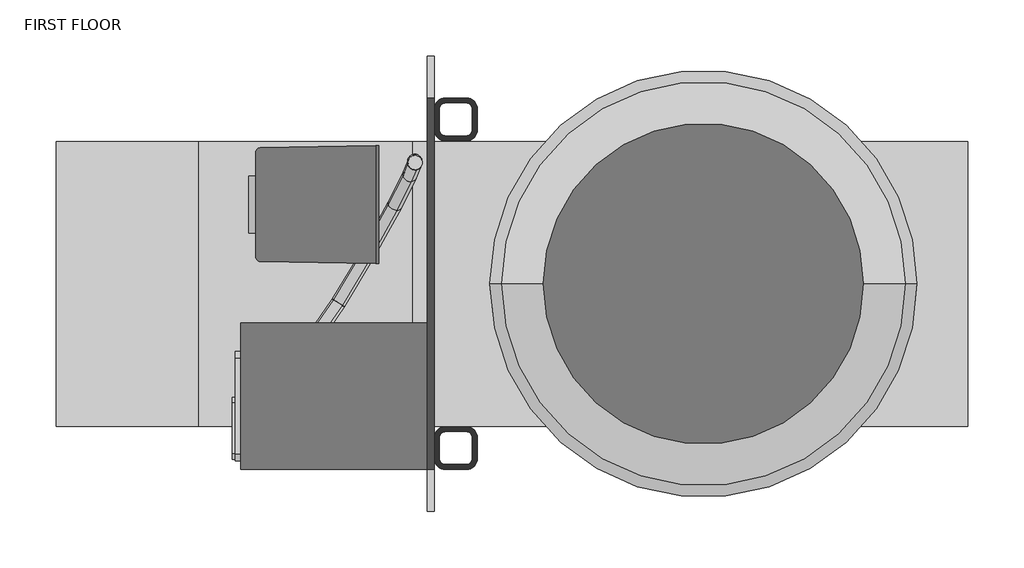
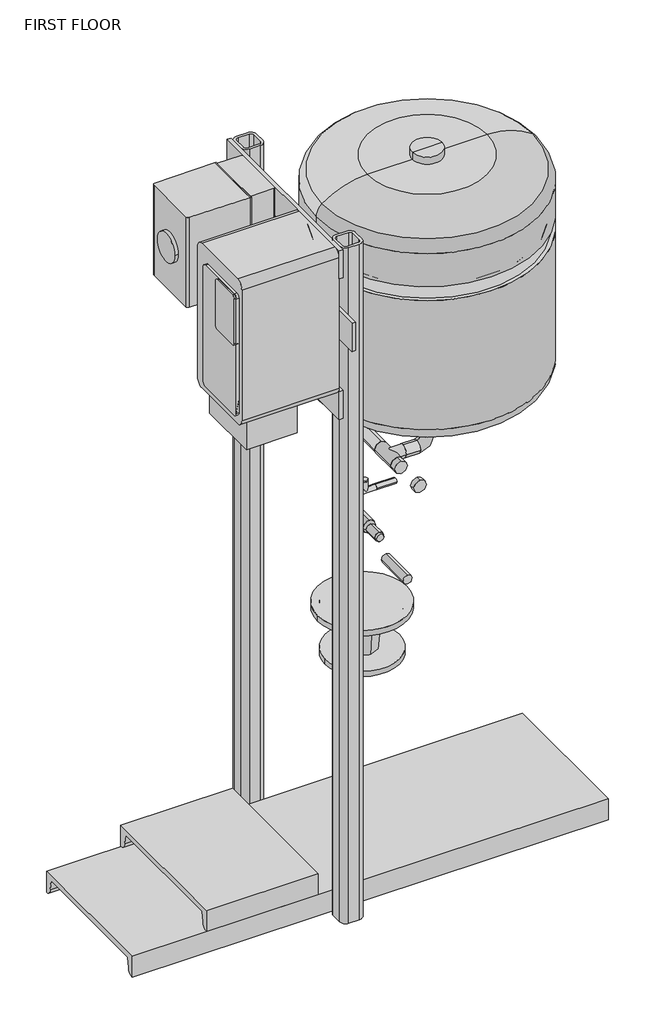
# One storey, incomplete: 13 pipe segments, 9 pipe fittings, 5 beams, 4 proxies, 2 columns, 2 valves.
"""IFC4 building model written with IfcOpenShell, lengths in millimetres."""

from ifc_helpers import new_model, si_unit, point, frame, frame_2d, origin, place, context, project, spatial, circle_curve, ellipse_curve, trimmed, segment, composite_curve, outline, extrude, transform, mapped, element, save
from ifc_brep_helpers import plane_surface, cylinder_surface, advanced_brep
from components import beam_3386be0e, beam_c16335ed, beam_b0f6b6d0, c_channel_c10x20_f8b15b4c, c_channel_c10x20_05937fa8, disconnect_disconnect_c236907a, mechanical_equipment_2_mechanical_equipment_1_fe574fe3, tank_tank_de8b4314, vfd_vfd_badebb43, hss_hollow_structural_section_column_hss1_1_2x1_1_2x3_16_b4625a5d, hss_hollow_structural_section_column_hss1_1_2x1_1_2x3_16_67ca75d1, elbow_generic_standard_738589b0, tee_generic_standard_5078887e, tee_generic_standard_7a603254, transition_generic1_standard_2_0acd84b5, transition_generic1_standard_2_44e35838, transition_generic1_standard_2_162a224e, transition_welded_generic_standard_0458f375, pipe_accessories_3_pipe_accessories_1_588a886f

model = new_model("IFC4")

# Units and contexts
model_context = context("Model", 3, world=origin())
ifc_project = project(units=[si_unit("LENGTHUNIT", "METRE", prefix="MILLI")], contexts=[model_context])

# Site, building, storey
site = spatial("IfcSite", under=ifc_project)
building = spatial("IfcBuilding", under=site)
storey = spatial("IfcBuildingStorey", under=building, Name="FIRST FLOOR", Elevation=0.0)

# Beams
placement = place(None, origin())
beam_shape = beam_3386be0e(model_context)
element("IfcBeam", 1, ObjectType="Structural Stiffeners 1 : Structural Stiffeners 1", at=placement, inside=storey, context=model_context, shape_type="MappedRepresentation", body=[
    mapped(beam_shape, transform((9118.6, 0.0, 0.0), x_axis=(1.0, 0.0, 0.0), y_axis=(0.0, 1.0, 0.0), z_axis=(0.0, 0.0, 1.0))),
])
beam_2_shape = beam_c16335ed(model_context)
element("IfcBeam", 2, ObjectType="Structural Stiffeners 5 : Structural Stiffeners 3", at=placement, inside=storey, context=model_context, shape_type="MappedRepresentation", body=[
    mapped(beam_2_shape, transform((9118.6, 0.0, 0.0), x_axis=(1.0, 0.0, 0.0), y_axis=(0.0, 1.0, 0.0), z_axis=(0.0, 0.0, 1.0))),
])
beam_3_shape = beam_b0f6b6d0(model_context)
element("IfcBeam", 3, ObjectType="Structural Stiffeners 6 : Structural Stiffeners 4", at=placement, inside=storey, context=model_context, shape_type="MappedRepresentation", body=[
    mapped(beam_3_shape, transform((9118.6, 0.0, 0.0), x_axis=(1.0, 0.0, 0.0), y_axis=(0.0, 1.0, 0.0), z_axis=(0.0, 0.0, 1.0))),
])
c_channel_c10x20_shape = c_channel_c10x20_f8b15b4c(model_context)
element("IfcBeam", 4, ObjectType="C-Channel : C10X20", at=placement, inside=storey, context=model_context, shape_type="MappedRepresentation", body=[
    mapped(c_channel_c10x20_shape, transform((11328.7735789, 2040.2688308, 22.8203125), x_axis=(1.0, 0.0, 0.0), y_axis=(0.0, 0.0, 1.0), z_axis=(0.0, -1.0, 0.0))),
])
c_channel_c10x20_2_shape = c_channel_c10x20_05937fa8(model_context)
element("IfcBeam", 5, ObjectType="C-Channel : C10X20", at=placement, inside=storey, context=model_context, shape_type="MappedRepresentation", body=[
    mapped(c_channel_c10x20_2_shape, transform((11250.2685292, 2040.2688308, 60.9203125), x_axis=(1.0, 0.0, 0.0), y_axis=(0.0, 0.0, 1.0), z_axis=(0.0, -1.0, 0.0))),
])

# Proxies
disconnect_disconnect_shape = disconnect_disconnect_c236907a(model_context)
element("IfcBuildingElementProxy", 6, Name="Disconnect : Disconnect", ObjectType="Disconnect : Disconnect", at=placement, inside=storey, context=model_context, shape_type="MappedRepresentation", body=[
    mapped(disconnect_disconnect_shape, transform((11352.6305289, 2110.8435936, 1057.148), x_axis=(0.0, 1.0, 0.0), y_axis=(-1.0, 0.0, 0.0), z_axis=(0.0, 0.0, 1.0))),
])
mechanical_equipment_2_mechanical_equipment_1_shape = mechanical_equipment_2_mechanical_equipment_1_fe574fe3(model_context)
element("IfcBuildingElementProxy", 7, Name="Mechanical Equipment 2 : Mechanical Equipment 1", ObjectType="Mechanical Equipment 2 : Mechanical Equipment 1", at=placement, inside=storey, context=model_context, shape_type="MappedRepresentation", body=[
    mapped(mechanical_equipment_2_mechanical_equipment_1_shape, transform((0.0, 0.0, 25.4), x_axis=(1.0, 0.0, 0.0), y_axis=(0.0, 1.0, 0.0), z_axis=(0.0, 0.0, 1.0))),
])
tank_tank_shape = tank_tank_de8b4314(model_context)
element("IfcBuildingElementProxy", 8, Name="Tank : Tank", ObjectType="Tank : Tank", at=placement, inside=storey, context=model_context, shape_type="MappedRepresentation", body=[
    mapped(tank_tank_shape, transform((11598.6930289, 2040.2688308, 749.3), x_axis=(1.0, 0.0, 0.0), y_axis=(0.0, 1.0, 0.0), z_axis=(0.0, 0.0, 1.0))),
])
vfd_vfd_shape = vfd_vfd_badebb43(model_context)
element("IfcBuildingElementProxy", 9, Name="VFD : VFD", ObjectType="VFD : VFD", at=placement, inside=storey, context=model_context, shape_type="MappedRepresentation", body=[
    mapped(vfd_vfd_shape, transform((11186.4146214, 1935.4938308, 906.7002223), x_axis=(0.0, -1.0, 0.0), y_axis=(1.0, 0.0, 0.0), z_axis=(0.0, 0.0, 1.0))),
])

# Columns
hss_hollow_structural_section_column_hss1_1_2x1_1_2x3_16_shape = hss_hollow_structural_section_column_hss1_1_2x1_1_2x3_16_b4625a5d(model_context)
element("IfcColumn", 10, ObjectType="HSS-Hollow Structural Section-Column : HSS1-1/2X1-1/2X3/16 - Obsolete", at=placement, inside=storey, context=model_context, shape_type="MappedRepresentation", body=[
    mapped(hss_hollow_structural_section_column_hss1_1_2x1_1_2x3_16_shape, transform((11378.0305289, 1893.655878, 0.0), x_axis=(1.0, 0.0, 0.0), y_axis=(0.0, 1.0, 0.0), z_axis=(0.0, 0.0, 1.0))),
])
hss_hollow_structural_section_column_hss1_1_2x1_1_2x3_16_2_shape = hss_hollow_structural_section_column_hss1_1_2x1_1_2x3_16_67ca75d1(model_context)
element("IfcColumn", 11, ObjectType="HSS-Hollow Structural Section-Column : HSS1-1/2X1-1/2X3/16 - Obsolete", at=placement, inside=storey, context=model_context, shape_type="MappedRepresentation", body=[
    mapped(hss_hollow_structural_section_column_hss1_1_2x1_1_2x3_16_2_shape, transform((11378.0305289, 2186.8817836, 0.0), x_axis=(1.0, 0.0, 0.0), y_axis=(0.0, 1.0, 0.0), z_axis=(0.0, 0.0, 1.0))),
])

# Pipe fittings
elbow_generic_standard_shape = elbow_generic_standard_738589b0(model_context)
element("IfcPipeFitting", 12, ObjectType="Elbow - Generic : Standard", at=placement, inside=storey, context=model_context, shape_type="MappedRepresentation", body=[
    mapped(elbow_generic_standard_shape, transform((11598.6930289, 2040.2688308, 685.8), x_axis=(0.0, 0.0, -1.0), y_axis=(-1.0, 0.0, 0.0), z_axis=(0.0, 1.0, 0.0))),
])
element("IfcPipeFitting", 13, ObjectType="Elbow - Generic : Standard", at=placement, inside=storey, context=model_context, shape_type="MappedRepresentation", body=[
    mapped(elbow_generic_standard_shape, transform((11533.3903765, 2159.3313308, 685.8), x_axis=(0.0, 1.0, 0.0), y_axis=(0.0, 0.0, -1.0), z_axis=(-1.0, 0.0, 0.0))),
])
element("IfcPipeFitting", 14, ObjectType="Elbow - Generic : Standard", at=placement, inside=storey, context=model_context, shape_type="MappedRepresentation", body=[
    mapped(elbow_generic_standard_shape, transform((11533.3903765, 2159.3313308, 521.97), x_axis=(0.0, 0.0, -1.0), y_axis=(0.0, -1.0, 0.0), z_axis=(-1.0, 0.0, 0.0))),
])
tee_generic_standard_shape = tee_generic_standard_5078887e(model_context)
element("IfcPipeFitting", 15, ObjectType="Tee - Generic : Standard", at=placement, inside=storey, context=model_context, shape_type="MappedRepresentation", body=[
    mapped(tee_generic_standard_shape, transform((11533.3903765, 2040.2688308, 685.8), x_axis=(0.0, -1.0, 0.0), y_axis=(-1.0, 0.0, 0.0), z_axis=(0.0, 0.0, -1.0))),
])
tee_generic_standard_2_shape = tee_generic_standard_7a603254(model_context)
element("IfcPipeFitting", 16, ObjectType="Tee - Generic : Standard", at=placement, inside=storey, context=model_context, shape_type="MappedRepresentation", body=[
    mapped(tee_generic_standard_2_shape, transform((11457.9841265, 1980.7375808, 685.8), x_axis=(-1.0, 0.0, 0.0), y_axis=(0.0, 0.0, -1.0), z_axis=(0.0, -1.0, 0.0))),
])
transition_generic1_standard_2_shape = transition_generic1_standard_2_0acd84b5(model_context)
element("IfcPipeFitting", 17, ObjectType="Transition - Generic1 : Standard 2", at=placement, inside=storey, context=model_context, shape_type="MappedRepresentation", body=[
    mapped(transition_generic1_standard_2_shape, transform((11598.6930289, 2040.2688308, 760.197863), x_axis=(0.0, 0.0, 1.0), y_axis=(-1.0, 0.0, 0.0), z_axis=(0.0, -1.0, 0.0))),
])
transition_generic1_standard_2_2_shape = transition_generic1_standard_2_44e35838(model_context)
element("IfcPipeFitting", 18, ObjectType="Transition - Generic1 : Standard 2", at=placement, inside=storey, context=model_context, shape_type="MappedRepresentation", body=[
    mapped(transition_generic1_standard_2_2_shape, transform((11533.3903765, 2099.8000808, 521.97), x_axis=(0.0, -1.0, 0.0), y_axis=(1.0, 0.0, 0.0), z_axis=(0.0, 0.0, 1.0))),
])
transition_generic1_standard_2_3_shape = transition_generic1_standard_2_162a224e(model_context)
element("IfcPipeFitting", 19, ObjectType="Transition - Generic1 : Standard 2", at=placement, inside=storey, context=model_context, shape_type="MappedRepresentation", body=[
    mapped(transition_generic1_standard_2_3_shape, transform((11533.3903765, 2069.6249791, 521.97), x_axis=(0.0, -1.0, 0.0), y_axis=(1.0, 0.0, 0.0), z_axis=(0.0, 0.0, 1.0))),
])
transition_welded_generic_standard_shape = transition_welded_generic_standard_0458f375(model_context)
element("IfcPipeFitting", 20, ObjectType="Transition - Welded - Generic : Standard", at=placement, inside=storey, context=model_context, shape_type="MappedRepresentation", body=[
    mapped(transition_welded_generic_standard_shape, transform((11487.5680289, 2040.2688308, 355.4266676), x_axis=(0.0, 0.0, 1.0), y_axis=(0.0, -1.0, 0.0), z_axis=(1.0, 0.0, 0.0))),
])

# Pipe segments
element("IfcPipeSegment", 21, ObjectType="Flex - Round", at=placement, inside=storey, context=model_context, shape_type="AdvancedBrep", body=[
    advanced_brep(
    [(11335.3975788, 2147.4712083, 1070.589219), (11342.7251084, 2142.2820118, 1070.4325321), (11347.916536, 2149.6079608, 1070.589219), (11340.5890064, 2154.7971572, 1070.745906), (11335.2209973, 2148.5057765, 1028.0682254), (11340.4115903, 2155.8366155, 1028.0239325), (11347.7398395, 2150.6432023, 1028.0405559), (11342.5492466, 2143.3123633, 1028.0848488)],
    [
        (0, 1, circle_curve(frame((11341.6570574, 2148.5395845, 1070.589219), z_axis=(0.004151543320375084, -0.024323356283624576, 0.9996955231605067), x_axis=(-0.9857446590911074, -0.16824823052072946, 0.0)), 6.35)),
        (1, 2, circle_curve(frame((11341.6570574, 2148.5395845, 1070.589219), z_axis=(0.004151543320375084, -0.024323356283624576, 0.9996955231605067), x_axis=(-0.9857446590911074, -0.16824823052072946, 0.0)), 6.35)),
        (2, 3, circle_curve(frame((11341.6570574, 2148.5395845, 1070.589219), z_axis=(0.004151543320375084, -0.024323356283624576, 0.9996955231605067), x_axis=(-0.9857446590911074, -0.16824823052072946, 0.0)), 6.35)),
        (3, 0, circle_curve(frame((11341.6570574, 2148.5395845, 1070.589219), z_axis=(0.004151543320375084, -0.024323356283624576, 0.9996955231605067), x_axis=(-0.9857446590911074, -0.16824823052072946, 0.0)), 6.35)),
        (4, 5, ellipse_curve(frame((11341.4804184, 2149.5744894, 1028.0543907), z_axis=(-0.0013407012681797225, -0.005092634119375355, -0.9999861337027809), x_axis=(0.09514721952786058, -0.9954509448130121, 0.0049419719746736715)), 6.3527739, 6.35)),
        (5, 6, ellipse_curve(frame((11341.4804184, 2149.5744894, 1028.0543907), z_axis=(-0.0013407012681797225, -0.005092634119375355, -0.9999861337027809), x_axis=(0.09514721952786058, -0.9954509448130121, 0.0049419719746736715)), 6.3527739, 6.35)),
        (6, 7, ellipse_curve(frame((11341.4804184, 2149.5744894, 1028.0543907), z_axis=(-0.0013407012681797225, -0.005092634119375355, -0.9999861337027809), x_axis=(0.09514721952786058, -0.9954509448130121, 0.0049419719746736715)), 6.3527739, 6.35)),
        (7, 4, ellipse_curve(frame((11341.4804184, 2149.5744894, 1028.0543907), z_axis=(-0.0013407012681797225, -0.005092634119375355, -0.9999861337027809), x_axis=(0.09514721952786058, -0.9954509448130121, 0.0049419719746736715)), 6.3527739, 6.35)),
        (0, 4),
        (7, 1),
        (6, 2),
        (5, 3),
    ],
    [
        plane_surface(frame((11341.6570574, 2154.8877058, 1070.7436737), z_axis=(0.004151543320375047, -0.024323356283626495, 0.9996955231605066), x_axis=(0.9999913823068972, 0.00010098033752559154, -0.004150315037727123))),
        plane_surface(frame((11347.8016041, 2150.1786238, 1028.0428391), z_axis=(-0.0013407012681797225, -0.005092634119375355, -0.9999861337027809), x_axis=(0.09514721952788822, -0.9954509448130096, 0.004941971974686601))),
        cylinder_surface(frame((11341.6570574, 2148.5395845, 1070.589219), z_axis=(0.004151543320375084, -0.024323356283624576, 0.9996955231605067), x_axis=(-0.9857446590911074, -0.16824823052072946, 0.0)), 6.35),
    ],
    [
        (0, [[1, 2, 3, 4]]),
        (1, [[5, 6, 7, 8]]),
        (2, [[-1, 9, -8, 10]]),
        (2, [[-2, -10, -7, 11]]),
        (2, [[-3, -11, -6, 12]]),
        (2, [[-4, -12, -5, -9]]),
    ],
),
    advanced_brep(
    [(11335.2209973, 2148.5057765, 1028.0682254), (11342.5492466, 2143.3123633, 1028.0848488), (11347.7398395, 2150.6432023, 1028.0405559), (11340.4115903, 2155.8366155, 1028.0239325), (11335.2834544, 2147.0410751, 985.6435743), (11342.6111534, 2141.8605664, 986.0339729), (11347.8037297, 2149.1448938, 984.6424862), (11340.4760307, 2154.3254025, 984.2520876)],
    [
        (0, 1, ellipse_curve(frame((11341.4804184, 2149.5744894, 1028.0543907), z_axis=(0.0013407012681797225, 0.005092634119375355, 0.9999861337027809), x_axis=(-0.09514721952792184, 0.9954509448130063, -0.004941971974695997)), 6.3527739, 6.35)),
        (1, 2, ellipse_curve(frame((11341.4804184, 2149.5744894, 1028.0543907), z_axis=(0.0013407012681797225, 0.005092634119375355, 0.9999861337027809), x_axis=(-0.09514721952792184, 0.9954509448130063, -0.004941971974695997)), 6.3527739, 6.35)),
        (2, 3, ellipse_curve(frame((11341.4804184, 2149.5744894, 1028.0543907), z_axis=(0.0013407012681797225, 0.005092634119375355, 0.9999861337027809), x_axis=(-0.09514721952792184, 0.9954509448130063, -0.004941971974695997)), 6.3527739, 6.35)),
        (3, 0, ellipse_curve(frame((11341.4804184, 2149.5744894, 1028.0543907), z_axis=(0.0013407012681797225, 0.005092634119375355, 0.9999861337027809), x_axis=(-0.09514721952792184, 0.9954509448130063, -0.004941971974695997)), 6.3527739, 6.35)),
        (0, 4),
        (4, 5, ellipse_curve(frame((11341.5435921, 2148.0929845, 985.1430302), z_axis=(0.05367454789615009, 0.1503143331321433, 0.9871801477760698), x_axis=(-0.42540884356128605, -0.8909612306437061, 0.15879358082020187)), 6.4031541, 6.35)),
        (5, 1),
        (5, 6, ellipse_curve(frame((11341.5435921, 2148.0929845, 985.1430302), z_axis=(0.05367454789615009, 0.1503143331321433, 0.9871801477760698), x_axis=(-0.42540884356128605, -0.8909612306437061, 0.15879358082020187)), 6.4031541, 6.35)),
        (6, 2),
        (6, 7, ellipse_curve(frame((11341.5435921, 2148.0929845, 985.1430302), z_axis=(0.05367454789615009, 0.1503143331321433, 0.9871801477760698), x_axis=(-0.42540884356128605, -0.8909612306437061, 0.15879358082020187)), 6.4031541, 6.35)),
        (7, 3),
        (7, 4, ellipse_curve(frame((11341.5435921, 2148.0929845, 985.1430302), z_axis=(0.05367454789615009, 0.1503143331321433, 0.9871801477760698), x_axis=(-0.42540884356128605, -0.8909612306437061, 0.15879358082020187)), 6.4031541, 6.35)),
    ],
    [
        plane_surface(frame((11347.8016041, 2150.1786238, 1028.0428391), z_axis=(0.0013407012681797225, 0.005092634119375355, 0.9999861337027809), x_axis=(0.09514721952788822, -0.9954509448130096, 0.004941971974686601))),
        cylinder_surface(frame((11341.4804184, 2149.5744894, 1028.0543907), z_axis=(-0.0014713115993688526, 0.03450417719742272, 0.999403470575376), x_axis=(-0.9857388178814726, -0.16822604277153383, 0.004356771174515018)), 6.35),
        plane_surface(frame((11347.2802341, 2145.372147, 985.245412), z_axis=(-0.05367454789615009, -0.1503143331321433, -0.9871801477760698), x_axis=(-0.4254088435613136, -0.890961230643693, 0.15879358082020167))),
    ],
    [
        (0, [[1, 2, 3, 4]]),
        (1, [[-1, 5, 6, 7]]),
        (1, [[-2, -7, 8, 9]]),
        (1, [[-3, -9, 10, 11]]),
        (1, [[-4, -11, 12, -5]]),
        (2, [[-12, -10, -8, -6]]),
    ],
),
    advanced_brep(
    [(11335.2834544, 2147.0410751, 985.6435743), (11342.6111534, 2141.8605664, 986.0339729), (11347.8037297, 2149.1448938, 984.6424862), (11340.4760307, 2154.3254025, 984.2520876), (11330.9823605, 2136.5351893, 947.4436744), (11335.8244995, 2142.9635357, 942.9398004), (11343.1985687, 2137.8962913, 943.7420334), (11338.3564297, 2131.4679448, 948.2459074)],
    [
        (0, 1, ellipse_curve(frame((11341.5435921, 2148.0929845, 985.1430302), z_axis=(0.05367454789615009, 0.1503143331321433, 0.9871801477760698), x_axis=(0.42540884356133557, 0.8909612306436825, -0.158793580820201)), 6.4031541, 6.35)),
        (1, 2, ellipse_curve(frame((11341.5435921, 2148.0929845, 985.1430302), z_axis=(0.05367454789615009, 0.1503143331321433, 0.9871801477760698), x_axis=(0.42540884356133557, 0.8909612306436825, -0.158793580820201)), 6.4031541, 6.35)),
        (2, 3, ellipse_curve(frame((11341.5435921, 2148.0929845, 985.1430302), z_axis=(0.05367454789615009, 0.1503143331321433, 0.9871801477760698), x_axis=(0.42540884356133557, 0.8909612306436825, -0.158793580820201)), 6.4031541, 6.35)),
        (3, 0, ellipse_curve(frame((11341.5435921, 2148.0929845, 985.1430302), z_axis=(0.05367454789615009, 0.1503143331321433, 0.9871801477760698), x_axis=(0.42540884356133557, 0.8909612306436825, -0.158793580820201)), 6.4031541, 6.35)),
        (4, 5, ellipse_curve(frame((11337.0904646, 2137.2157403, 945.5928539), z_axis=(-0.21322910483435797, -0.4477748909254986, -0.8683495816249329), x_axis=(-0.4351267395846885, -0.7522510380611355, 0.4947555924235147)), 6.5233147, 6.35)),
        (5, 6, ellipse_curve(frame((11337.0904646, 2137.2157403, 945.5928539), z_axis=(-0.21322910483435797, -0.4477748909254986, -0.8683495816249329), x_axis=(-0.4351267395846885, -0.7522510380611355, 0.4947555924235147)), 6.5233147, 6.35)),
        (6, 7, ellipse_curve(frame((11337.0904646, 2137.2157403, 945.5928539), z_axis=(-0.21322910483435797, -0.4477748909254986, -0.8683495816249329), x_axis=(-0.4351267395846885, -0.7522510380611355, 0.4947555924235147)), 6.5233147, 6.35)),
        (7, 4, ellipse_curve(frame((11337.0904646, 2137.2157403, 945.5928539), z_axis=(-0.21322910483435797, -0.4477748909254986, -0.8683495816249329), x_axis=(-0.4351267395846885, -0.7522510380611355, 0.4947555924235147)), 6.5233147, 6.35)),
        (0, 4),
        (7, 1),
        (6, 2),
        (5, 3),
    ],
    [
        plane_surface(frame((11347.2802341, 2145.372147, 985.245412), z_axis=(0.05367454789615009, 0.1503143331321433, 0.9871801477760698), x_axis=(-0.4254088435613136, -0.890961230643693, 0.15879358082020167))),
        plane_surface(frame((11342.6451652, 2134.1465413, 945.8115289), z_axis=(-0.21322910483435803, -0.4477748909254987, -0.8683495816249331), x_axis=(-0.4351267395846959, -0.7522510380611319, 0.49475559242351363))),
        cylinder_surface(frame((11341.5435921, 2148.0929845, 985.1430302), z_axis=(0.10792927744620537, 0.26362890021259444, 0.9585671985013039), x_axis=(-0.9778062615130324, -0.14601110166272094, 0.15025203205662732)), 6.35),
    ],
    [
        (0, [[1, 2, 3, 4]]),
        (1, [[5, 6, 7, 8]]),
        (2, [[-1, 9, -8, 10]]),
        (2, [[-2, -10, -7, 11]]),
        (2, [[-3, -11, -6, 12]]),
        (2, [[-4, -12, -5, -9]]),
    ],
),
    advanced_brep(
    [(11330.9823605, 2136.5351893, 947.4436744), (11338.3564297, 2131.4679448, 948.2459074), (11343.1985687, 2137.8962913, 943.7420334), (11335.8244995, 2142.9635357, 942.9398004), (11317.9019165, 2110.6412632, 916.2756906), (11321.5507517, 2114.7073564, 908.9284212), (11329.0358957, 2109.8599946, 909.9953223), (11325.3870605, 2105.7939014, 917.3425917)],
    [
        (0, 1, ellipse_curve(frame((11337.0904646, 2137.2157403, 945.5928539), z_axis=(0.21322910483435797, 0.4477748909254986, 0.8683495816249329), x_axis=(0.4351267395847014, 0.7522510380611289, -0.49475559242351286)), 6.5233147, 6.35)),
        (1, 2, ellipse_curve(frame((11337.0904646, 2137.2157403, 945.5928539), z_axis=(0.21322910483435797, 0.4477748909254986, 0.8683495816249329), x_axis=(0.4351267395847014, 0.7522510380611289, -0.49475559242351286)), 6.5233147, 6.35)),
        (2, 3, ellipse_curve(frame((11337.0904646, 2137.2157403, 945.5928539), z_axis=(0.21322910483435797, 0.4477748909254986, 0.8683495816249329), x_axis=(0.4351267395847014, 0.7522510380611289, -0.49475559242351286)), 6.5233147, 6.35)),
        (3, 0, ellipse_curve(frame((11337.0904646, 2137.2157403, 945.5928539), z_axis=(0.21322910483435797, 0.4477748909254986, 0.8683495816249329), x_axis=(0.4351267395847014, 0.7522510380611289, -0.49475559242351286)), 6.5233147, 6.35)),
        (4, 5, ellipse_curve(frame((11323.4689061, 2110.2506289, 913.1355065), z_axis=(-0.38035491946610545, -0.7161376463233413, -0.5852153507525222), x_axis=(-0.33682675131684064, -0.48205080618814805, 0.8088107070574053)), 6.4748381, 6.35)),
        (5, 6, ellipse_curve(frame((11323.4689061, 2110.2506289, 913.1355065), z_axis=(-0.38035491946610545, -0.7161376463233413, -0.5852153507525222), x_axis=(-0.33682675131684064, -0.48205080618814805, 0.8088107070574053)), 6.4748381, 6.35)),
        (6, 7, ellipse_curve(frame((11323.4689061, 2110.2506289, 913.1355065), z_axis=(-0.38035491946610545, -0.7161376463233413, -0.5852153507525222), x_axis=(-0.33682675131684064, -0.48205080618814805, 0.8088107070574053)), 6.4748381, 6.35)),
        (7, 4, ellipse_curve(frame((11323.4689061, 2110.2506289, 913.1355065), z_axis=(-0.38035491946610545, -0.7161376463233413, -0.5852153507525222), x_axis=(-0.33682675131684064, -0.48205080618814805, 0.8088107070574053)), 6.4748381, 6.35)),
        (0, 4),
        (7, 1),
        (6, 2),
        (5, 3),
    ],
    [
        plane_surface(frame((11342.6451652, 2134.1465413, 945.8115289), z_axis=(0.21322910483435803, 0.4477748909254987, 0.8683495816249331), x_axis=(-0.4351267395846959, -0.7522510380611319, 0.49475559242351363))),
        plane_surface(frame((11328.9383092, 2107.045458, 913.5029424), z_axis=(-0.38035491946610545, -0.7161376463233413, -0.5852153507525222), x_axis=(-0.3368267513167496, -0.48205080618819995, 0.8088107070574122))),
        cylinder_surface(frame((11337.0904646, 2137.2157403, 945.5928539), z_axis=(0.3071985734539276, 0.6081274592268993, 0.7319904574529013), x_axis=(-0.9166497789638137, -0.01758427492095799, 0.39930436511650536)), 6.35),
    ],
    [
        (0, [[1, 2, 3, 4]]),
        (1, [[5, 6, 7, 8]]),
        (2, [[-1, 9, -8, 10]]),
        (2, [[-2, -10, -7, 11]]),
        (2, [[-3, -11, -6, 12]]),
        (2, [[-4, -12, -5, -9]]),
    ],
),
    advanced_brep(
    [(11317.9019165, 2110.6412632, 916.2756906), (11325.3870605, 2105.7939014, 917.3425917), (11329.0358957, 2109.8599946, 909.9953223), (11321.5507517, 2114.7073564, 908.9284212), (11295.4406583, 2069.8725306, 894.9901328), (11297.7570082, 2071.5200711, 886.380125), (11305.3060412, 2066.7886721, 887.5075709), (11302.9896913, 2065.1411315, 896.1175786)],
    [
        (0, 1, ellipse_curve(frame((11323.4689061, 2110.2506289, 913.1355065), z_axis=(0.38035491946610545, 0.7161376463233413, 0.5852153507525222), x_axis=(0.3368267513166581, 0.4820508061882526, -0.8088107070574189)), 6.4748381, 6.35)),
        (1, 2, ellipse_curve(frame((11323.4689061, 2110.2506289, 913.1355065), z_axis=(0.38035491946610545, 0.7161376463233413, 0.5852153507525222), x_axis=(0.3368267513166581, 0.4820508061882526, -0.8088107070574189)), 6.4748381, 6.35)),
        (2, 3, ellipse_curve(frame((11323.4689061, 2110.2506289, 913.1355065), z_axis=(0.38035491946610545, 0.7161376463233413, 0.5852153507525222), x_axis=(0.3368267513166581, 0.4820508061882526, -0.8088107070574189)), 6.4748381, 6.35)),
        (3, 0, ellipse_curve(frame((11323.4689061, 2110.2506289, 913.1355065), z_axis=(0.38035491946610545, 0.7161376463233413, 0.5852153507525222), x_axis=(0.3368267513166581, 0.4820508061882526, -0.8088107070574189)), 6.4748381, 6.35)),
        (4, 5, ellipse_curve(frame((11300.3733498, 2068.3306013, 891.2488518), z_axis=(-0.47749382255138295, -0.8303212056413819, -0.287343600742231), x_axis=(-0.24680076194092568, -0.18711891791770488, 0.9508290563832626)), 6.4114066, 6.35)),
        (5, 6, ellipse_curve(frame((11300.3733498, 2068.3306013, 891.2488518), z_axis=(-0.47749382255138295, -0.8303212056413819, -0.287343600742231), x_axis=(-0.24680076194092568, -0.18711891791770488, 0.9508290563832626)), 6.4114066, 6.35)),
        (6, 7, ellipse_curve(frame((11300.3733498, 2068.3306013, 891.2488518), z_axis=(-0.47749382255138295, -0.8303212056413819, -0.287343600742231), x_axis=(-0.24680076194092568, -0.18711891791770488, 0.9508290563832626)), 6.4114066, 6.35)),
        (7, 4, ellipse_curve(frame((11300.3733498, 2068.3306013, 891.2488518), z_axis=(-0.47749382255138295, -0.8303212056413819, -0.287343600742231), x_axis=(-0.24680076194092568, -0.18711891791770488, 0.9508290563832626)), 6.4114066, 6.35)),
        (0, 4),
        (7, 1),
        (6, 2),
        (5, 3),
    ],
    [
        plane_surface(frame((11328.9383092, 2107.045458, 913.5029424), z_axis=(0.38035491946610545, 0.7161376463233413, 0.5852153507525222), x_axis=(-0.3368267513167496, -0.48205080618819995, 0.8088107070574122))),
        plane_surface(frame((11305.7280568, 2064.9972856, 891.982758), z_axis=(-0.47749382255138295, -0.8303212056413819, -0.287343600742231), x_axis=(-0.2468007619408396, -0.18711891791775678, 0.9508290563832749))),
        cylinder_surface(frame((11323.4689061, 2110.2506289, 913.1355065), z_axis=(0.43884440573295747, 0.7965328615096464, 0.41587376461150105), x_axis=(-0.8196090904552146, 0.16512531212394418, 0.5486114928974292)), 6.35),
    ],
    [
        (0, [[1, 2, 3, 4]]),
        (1, [[5, 6, 7, 8]]),
        (2, [[-1, 9, -8, 10]]),
        (2, [[-2, -10, -7, 11]]),
        (2, [[-3, -11, -6, 12]]),
        (2, [[-4, -12, -5, -9]]),
    ],
),
    advanced_brep(
    [(11295.4406583, 2069.8725306, 894.9901328), (11302.9896913, 2065.1411315, 896.1175786), (11305.3060412, 2066.7886721, 887.5075709), (11297.7570082, 2071.5200711, 886.380125), (11269.1401447, 2025.8718225, 887.0371966), (11270.0090487, 2025.097789, 877.9894998), (11277.5141163, 2020.292836, 879.1036511), (11276.6452122, 2021.0668694, 888.1513479)],
    [
        (0, 1, ellipse_curve(frame((11300.3733498, 2068.3306013, 891.2488518), z_axis=(0.47749382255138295, 0.8303212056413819, 0.287343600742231), x_axis=(0.24680076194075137, 0.18711891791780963, -0.9508290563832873)), 6.4114066, 6.35)),
        (1, 2, ellipse_curve(frame((11300.3733498, 2068.3306013, 891.2488518), z_axis=(0.47749382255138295, 0.8303212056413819, 0.287343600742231), x_axis=(0.24680076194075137, 0.18711891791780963, -0.9508290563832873)), 6.4114066, 6.35)),
        (2, 3, ellipse_curve(frame((11300.3733498, 2068.3306013, 891.2488518), z_axis=(0.47749382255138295, 0.8303212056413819, 0.287343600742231), x_axis=(0.24680076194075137, 0.18711891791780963, -0.9508290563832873)), 6.4114066, 6.35)),
        (3, 0, ellipse_curve(frame((11300.3733498, 2068.3306013, 891.2488518), z_axis=(0.47749382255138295, 0.8303212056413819, 0.287343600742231), x_axis=(0.24680076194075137, 0.18711891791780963, -0.9508290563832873)), 6.4114066, 6.35)),
        (4, 5, ellipse_curve(frame((11273.3271305, 2023.0823292, 883.0704239), z_axis=(-0.5411811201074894, -0.8406694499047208, 0.019946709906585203), x_axis=(-0.1461414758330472, 0.11738520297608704, 0.9822745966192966)), 6.4507707, 6.35)),
        (5, 6, ellipse_curve(frame((11273.3271305, 2023.0823292, 883.0704239), z_axis=(-0.5411811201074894, -0.8406694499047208, 0.019946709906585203), x_axis=(-0.1461414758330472, 0.11738520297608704, 0.9822745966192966)), 6.4507707, 6.35)),
        (6, 7, ellipse_curve(frame((11273.3271305, 2023.0823292, 883.0704239), z_axis=(-0.5411811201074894, -0.8406694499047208, 0.019946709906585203), x_axis=(-0.1461414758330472, 0.11738520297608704, 0.9822745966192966)), 6.4507707, 6.35)),
        (7, 4, ellipse_curve(frame((11273.3271305, 2023.0823292, 883.0704239), z_axis=(-0.5411811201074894, -0.8406694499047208, 0.019946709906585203), x_axis=(-0.1461414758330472, 0.11738520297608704, 0.9822745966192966)), 6.4507707, 6.35)),
        (0, 4),
        (7, 1),
        (6, 2),
        (5, 3),
    ],
    [
        plane_surface(frame((11305.7280568, 2064.9972856, 891.982758), z_axis=(0.47749382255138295, 0.8303212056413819, 0.287343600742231), x_axis=(-0.2468007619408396, -0.18711891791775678, 0.9508290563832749))),
        plane_surface(frame((11278.585627, 2019.725253, 884.253958), z_axis=(-0.5411811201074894, -0.8406694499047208, 0.019946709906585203), x_axis=(-0.1461414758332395, 0.1173852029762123, 0.982274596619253))),
        cylinder_surface(frame((11300.3733498, 2068.3306013, 891.2488518), z_axis=(0.5069966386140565, 0.8482043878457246, 0.15330924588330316), x_axis=(-0.7273465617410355, 0.3255620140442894, 0.6041327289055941)), 6.35),
    ],
    [
        (0, [[1, 2, 3, 4]]),
        (1, [[5, 6, 7, 8]]),
        (2, [[-1, 9, -8, 10]]),
        (2, [[-2, -10, -7, 11]]),
        (2, [[-3, -11, -6, 12]]),
        (2, [[-4, -12, -5, -9]]),
    ],
),
    advanced_brep(
    [(11269.1401447, 2025.8718225, 887.0371966), (11276.6452122, 2021.0668694, 888.1513479), (11277.5141163, 2020.292836, 879.1036511), (11270.0090487, 2025.097789, 877.9894998), (11245.5896739, 1991.845676, 895.1583826), (11243.6822544, 1987.0603599, 887.0680783), (11250.9344474, 1981.8900492, 888.2694313), (11252.841867, 1986.6753653, 896.3597356)],
    [
        (0, 1, ellipse_curve(frame((11273.3271305, 2023.0823292, 883.0704239), z_axis=(0.5411811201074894, 0.8406694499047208, -0.019946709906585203), x_axis=(0.14614147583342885, -0.11738520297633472, -0.9822745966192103)), 6.4507707, 6.35)),
        (1, 2, ellipse_curve(frame((11273.3271305, 2023.0823292, 883.0704239), z_axis=(0.5411811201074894, 0.8406694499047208, -0.019946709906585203), x_axis=(0.14614147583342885, -0.11738520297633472, -0.9822745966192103)), 6.4507707, 6.35)),
        (2, 3, ellipse_curve(frame((11273.3271305, 2023.0823292, 883.0704239), z_axis=(0.5411811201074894, 0.8406694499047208, -0.019946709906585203), x_axis=(0.14614147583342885, -0.11738520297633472, -0.9822745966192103)), 6.4507707, 6.35)),
        (3, 0, ellipse_curve(frame((11273.3271305, 2023.0823292, 883.0704239), z_axis=(0.5411811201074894, 0.8406694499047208, -0.019946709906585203), x_axis=(0.14614147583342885, -0.11738520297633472, -0.9822745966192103)), 6.4507707, 6.35)),
        (4, 5, ellipse_curve(frame((11248.2620607, 1986.8678626, 891.713907), z_axis=(-0.5520190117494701, -0.6541512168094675, 0.5170698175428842), x_axis=(0.11887924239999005, 0.5520363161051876, 0.8253021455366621)), 6.7865746, 6.35)),
        (5, 6, ellipse_curve(frame((11248.2620607, 1986.8678626, 891.713907), z_axis=(-0.5520190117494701, -0.6541512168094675, 0.5170698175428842), x_axis=(0.11887924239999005, 0.5520363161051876, 0.8253021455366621)), 6.7865746, 6.35)),
        (6, 7, ellipse_curve(frame((11248.2620607, 1986.8678626, 891.713907), z_axis=(-0.5520190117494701, -0.6541512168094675, 0.5170698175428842), x_axis=(0.11887924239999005, 0.5520363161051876, 0.8253021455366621)), 6.7865746, 6.35)),
        (7, 4, ellipse_curve(frame((11248.2620607, 1986.8678626, 891.713907), z_axis=(-0.5520190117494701, -0.6541512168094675, 0.5170698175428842), x_axis=(0.11887924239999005, 0.5520363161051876, 0.8253021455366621)), 6.7865746, 6.35)),
        (0, 4),
        (7, 1),
        (6, 2),
        (5, 3),
    ],
    [
        plane_surface(frame((11278.585627, 2019.725253, 884.253958), z_axis=(0.5411811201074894, 0.8406694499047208, -0.019946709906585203), x_axis=(-0.1461414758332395, 0.1173852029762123, 0.982274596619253))),
        plane_surface(frame((11253.5028028, 1983.5845866, 893.1551635), z_axis=(-0.5520190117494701, -0.6541512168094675, 0.5170698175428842), x_axis=(0.11887924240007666, 0.5520363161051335, 0.8253021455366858))),
        cylinder_surface(frame((11273.3271305, 2023.0823292, 883.0704239), z_axis=(0.558457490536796, 0.8068694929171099, -0.19257947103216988), x_axis=(-0.5844891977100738, 0.5474762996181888, 0.5988673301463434)), 6.35),
    ],
    [
        (0, [[1, 2, 3, 4]]),
        (1, [[5, 6, 7, 8]]),
        (2, [[-1, 9, -8, 10]]),
        (2, [[-2, -10, -7, 11]]),
        (2, [[-3, -11, -6, 12]]),
        (2, [[-4, -12, -5, -9]]),
    ],
),
    advanced_brep(
    [(11245.5896739, 1991.845676, 895.1583826), (11252.841867, 1986.6753653, 896.3597356), (11250.9344474, 1981.8900492, 888.2694313), (11243.6822544, 1987.0603599, 887.0680783), (11230.2306617, 1978.3407721, 920.2422543), (11225.6323975, 1971.1894445, 916.5465557), (11232.5872991, 1965.7577308, 918.2334359), (11237.1855634, 1972.9090584, 921.9291345)],
    [
        (0, 1, ellipse_curve(frame((11248.2620607, 1986.8678626, 891.713907), z_axis=(0.5520190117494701, 0.6541512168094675, -0.5170698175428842), x_axis=(-0.11887924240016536, -0.5520363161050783, -0.82530214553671)), 6.7865746, 6.35)),
        (1, 2, ellipse_curve(frame((11248.2620607, 1986.8678626, 891.713907), z_axis=(0.5520190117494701, 0.6541512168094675, -0.5170698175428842), x_axis=(-0.11887924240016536, -0.5520363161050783, -0.82530214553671)), 6.7865746, 6.35)),
        (2, 3, ellipse_curve(frame((11248.2620607, 1986.8678626, 891.713907), z_axis=(0.5520190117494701, 0.6541512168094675, -0.5170698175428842), x_axis=(-0.11887924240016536, -0.5520363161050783, -0.82530214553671)), 6.7865746, 6.35)),
        (3, 0, ellipse_curve(frame((11248.2620607, 1986.8678626, 891.713907), z_axis=(0.5520190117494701, 0.6541512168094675, -0.5170698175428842), x_axis=(-0.11887924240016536, -0.5520363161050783, -0.82530214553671)), 6.7865746, 6.35)),
        (4, 5, ellipse_curve(frame((11231.4089804, 1972.0492515, 919.2378451), z_axis=(-0.38585697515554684, -0.2154741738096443, 0.8970425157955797), x_axis=(0.403893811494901, 0.8347521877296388, 0.37424400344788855)), 6.5581417, 6.35)),
        (5, 6, ellipse_curve(frame((11231.4089804, 1972.0492515, 919.2378451), z_axis=(-0.38585697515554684, -0.2154741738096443, 0.8970425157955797), x_axis=(0.403893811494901, 0.8347521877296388, 0.37424400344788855)), 6.5581417, 6.35)),
        (6, 7, ellipse_curve(frame((11231.4089804, 1972.0492515, 919.2378451), z_axis=(-0.38585697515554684, -0.2154741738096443, 0.8970425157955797), x_axis=(0.403893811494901, 0.8347521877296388, 0.37424400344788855)), 6.5581417, 6.35)),
        (7, 4, ellipse_curve(frame((11231.4089804, 1972.0492515, 919.2378451), z_axis=(-0.38585697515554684, -0.2154741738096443, 0.8970425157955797), x_axis=(0.403893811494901, 0.8347521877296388, 0.37424400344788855)), 6.5581417, 6.35)),
        (0, 4),
        (7, 1),
        (6, 2),
        (5, 3),
    ],
    [
        plane_surface(frame((11253.5028028, 1983.5845866, 893.1551635), z_axis=(0.5520190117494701, 0.6541512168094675, -0.5170698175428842), x_axis=(0.11887924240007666, 0.5520363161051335, 0.8253021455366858))),
        plane_surface(frame((11236.675976, 1968.8316139, 920.7305159), z_axis=(-0.38585697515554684, -0.2154741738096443, 0.8970425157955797), x_axis=(0.40389381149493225, 0.8347521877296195, 0.374244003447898))),
        cylinder_surface(frame((11248.2620607, 1986.8678626, 891.713907), z_axis=(0.4745586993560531, 0.41727095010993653, -0.775034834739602), x_axis=(-0.2817916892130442, 0.9061776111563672, 0.31533407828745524)), 6.35),
    ],
    [
        (0, [[1, 2, 3, 4]]),
        (1, [[5, 6, 7, 8]]),
        (2, [[-1, 9, -8, 10]]),
        (2, [[-2, -10, -7, 11]]),
        (2, [[-3, -11, -6, 12]]),
        (2, [[-4, -12, -5, -9]]),
    ],
),
])
element("IfcPipeSegment", 22, ObjectType="Standard", at=placement, inside=storey, context=model_context, shape_type="SweptSolid", body=[
    extrude(outline(composite_curve([segment(trimmed(circle_curve(frame_2d((11598.6930289, 2040.2688308)), 11.1125), [point((11609.8055289, 2040.2688308))], [point((11598.6930289, 2029.1563308))], False, "CARTESIAN"), True, "CONTINUOUS"), segment(trimmed(circle_curve(frame_2d((11598.6930289, 2040.2688308)), 11.1125), [point((11598.6930289, 2029.1563308))], [point((11587.5805289, 2040.2688308))], False, "CARTESIAN"), True, "CONTINUOUS"), segment(trimmed(circle_curve(frame_2d((11598.6930289, 2040.2688308)), 11.1125), [point((11587.5805289, 2040.2688308))], [point((11598.6930289, 2051.3813308))], False, "CARTESIAN"), True, "CONTINUOUS"), segment(trimmed(circle_curve(frame_2d((11598.6930289, 2040.2688308)), 11.1125), [point((11598.6930289, 2051.3813308))], [point((11609.8055289, 2040.2688308))], False, "CARTESIAN"), True, "CONTINUOUS")], self_intersect=False)), frame((0.0, 0.0, 703.2625), z_axis=(0.0, 0.0, 1.0), x_axis=(1.0, 0.0, 0.0)), (0.0, 0.0, 1.0), 56.935363),
])
element("IfcPipeSegment", 23, ObjectType="Standard", at=placement, inside=storey, context=model_context, shape_type="SweptSolid", body=[
    extrude(outline(composite_curve([segment(trimmed(circle_curve(frame_2d((11598.6930289, 2040.2688308)), 14.2875), [point((11584.4055289, 2040.2688308))], [point((11598.6930289, 2054.5563308))], False, "CARTESIAN"), True, "CONTINUOUS"), segment(trimmed(circle_curve(frame_2d((11598.6930289, 2040.2688308)), 14.2875), [point((11598.6930289, 2054.5563308))], [point((11612.9805289, 2040.2688308))], False, "CARTESIAN"), True, "CONTINUOUS"), segment(trimmed(circle_curve(frame_2d((11598.6930289, 2040.2688308)), 14.2875), [point((11612.9805289, 2040.2688308))], [point((11598.6930289, 2025.9813308))], False, "CARTESIAN"), True, "CONTINUOUS"), segment(trimmed(circle_curve(frame_2d((11598.6930289, 2040.2688308)), 14.2875), [point((11598.6930289, 2025.9813308))], [point((11584.4055289, 2040.2688308))], False, "CARTESIAN"), True, "CONTINUOUS")], self_intersect=False)), frame((0.0, 0.0, 767.341613), z_axis=(0.0, 0.0, 1.0), x_axis=(1.0, 0.0, 0.0)), (0.0, 0.0, 1.0), 16.33156),
])
element("IfcPipeSegment", 24, ObjectType="Standard", at=placement, inside=storey, context=model_context, shape_type="SweptSolid", body=[
    extrude(outline(composite_curve([segment(trimmed(circle_curve(frame_2d((2040.2688308, 685.8)), 11.1125), [point((2051.3813308, 685.8))], [point((2040.2688308, 674.6875))], False, "CARTESIAN"), True, "CONTINUOUS"), segment(trimmed(circle_curve(frame_2d((2040.2688308, 685.8)), 11.1125), [point((2040.2688308, 674.6875))], [point((2029.1563308, 685.8))], False, "CARTESIAN"), True, "CONTINUOUS"), segment(trimmed(circle_curve(frame_2d((2040.2688308, 685.8)), 11.1125), [point((2029.1563308, 685.8))], [point((2040.2688308, 696.9125))], False, "CARTESIAN"), True, "CONTINUOUS"), segment(trimmed(circle_curve(frame_2d((2040.2688308, 685.8)), 11.1125), [point((2040.2688308, 696.9125))], [point((2051.3813308, 685.8))], False, "CARTESIAN"), True, "CONTINUOUS")], self_intersect=False)), frame((11557.2028765, 0.0, 0.0), z_axis=(1.0, 0.0, 0.0), x_axis=(0.0, 1.0, 0.0)), (0.0, 0.0, 1.0), 24.0276524),
])
element("IfcPipeSegment", 25, ObjectType="Standard", at=placement, inside=storey, context=model_context, shape_type="SweptSolid", body=[
    extrude(outline(composite_curve([segment(trimmed(circle_curve(frame_2d((685.8, 11533.3903765)), 11.1125), [point((685.8, 11544.5028765))], [point((696.9125, 11533.3903765))], False, "CARTESIAN"), True, "CONTINUOUS"), segment(trimmed(circle_curve(frame_2d((685.8, 11533.3903765)), 11.1125), [point((696.9125, 11533.3903765))], [point((685.8, 11522.2778765))], False, "CARTESIAN"), True, "CONTINUOUS"), segment(trimmed(circle_curve(frame_2d((685.8, 11533.3903765)), 11.1125), [point((685.8, 11522.2778765))], [point((674.6875, 11533.3903765))], False, "CARTESIAN"), True, "CONTINUOUS"), segment(trimmed(circle_curve(frame_2d((685.8, 11533.3903765)), 11.1125), [point((674.6875, 11533.3903765))], [point((685.8, 11544.5028765))], False, "CARTESIAN"), True, "CONTINUOUS")], self_intersect=False)), frame((0.0, 2064.0813308, 0.0), z_axis=(0.0, 1.0, 0.0), x_axis=(0.0, 0.0, 1.0)), (0.0, 0.0, 1.0), 77.7875),
])
element("IfcPipeSegment", 26, ObjectType="Standard", at=placement, inside=storey, context=model_context, shape_type="SweptSolid", body=[
    extrude(outline(composite_curve([segment(trimmed(circle_curve(frame_2d((11533.3903765, 2159.3313308)), 11.1125), [point((11544.5028765, 2159.3313308))], [point((11533.3903765, 2148.2188308))], False, "CARTESIAN"), True, "CONTINUOUS"), segment(trimmed(circle_curve(frame_2d((11533.3903765, 2159.3313308)), 11.1125), [point((11533.3903765, 2148.2188308))], [point((11522.2778765, 2159.3313308))], False, "CARTESIAN"), True, "CONTINUOUS"), segment(trimmed(circle_curve(frame_2d((11533.3903765, 2159.3313308)), 11.1125), [point((11522.2778765, 2159.3313308))], [point((11533.3903765, 2170.4438308))], False, "CARTESIAN"), True, "CONTINUOUS"), segment(trimmed(circle_curve(frame_2d((11533.3903765, 2159.3313308)), 11.1125), [point((11533.3903765, 2170.4438308))], [point((11544.5028765, 2159.3313308))], False, "CARTESIAN"), True, "CONTINUOUS")], self_intersect=False)), frame((0.0, 0.0, 539.4325), z_axis=(0.0, 0.0, 1.0), x_axis=(1.0, 0.0, 0.0)), (0.0, 0.0, 1.0), 128.905),
])
element("IfcPipeSegment", 27, ObjectType="Standard", at=placement, inside=storey, context=model_context, shape_type="SweptSolid", body=[
    extrude(outline(composite_curve([segment(trimmed(circle_curve(frame_2d((521.97, 11533.3903765)), 11.1125), [point((521.97, 11522.2778765))], [point((510.8575, 11533.3903765))], False, "CARTESIAN"), True, "CONTINUOUS"), segment(trimmed(circle_curve(frame_2d((521.97, 11533.3903765)), 11.1125), [point((510.8575, 11533.3903765))], [point((521.97, 11544.5028765))], False, "CARTESIAN"), True, "CONTINUOUS"), segment(trimmed(circle_curve(frame_2d((521.97, 11533.3903765)), 11.1125), [point((521.97, 11544.5028765))], [point((533.0825, 11533.3903765))], False, "CARTESIAN"), True, "CONTINUOUS"), segment(trimmed(circle_curve(frame_2d((521.97, 11533.3903765)), 11.1125), [point((533.0825, 11533.3903765))], [point((521.97, 11522.2778765))], False, "CARTESIAN"), True, "CONTINUOUS")], self_intersect=False)), frame((0.0, 2099.8000808, 0.0), z_axis=(0.0, 1.0, 0.0), x_axis=(0.0, 0.0, 1.0)), (0.0, 0.0, 1.0), 42.06875),
])
element("IfcPipeSegment", 28, ObjectType="Standard", at=placement, inside=storey, context=model_context, shape_type="SweptSolid", body=[
    extrude(outline(composite_curve([segment(trimmed(circle_curve(frame_2d((521.97, 11533.3903765)), 7.9375), [point((521.97, 11525.4528765))], [point((514.0325, 11533.3903765))], False, "CARTESIAN"), True, "CONTINUOUS"), segment(trimmed(circle_curve(frame_2d((521.97, 11533.3903765)), 7.9375), [point((514.0325, 11533.3903765))], [point((521.97, 11541.3278765))], False, "CARTESIAN"), True, "CONTINUOUS"), segment(trimmed(circle_curve(frame_2d((521.97, 11533.3903765)), 7.9375), [point((521.97, 11541.3278765))], [point((529.9075, 11533.3903765))], False, "CARTESIAN"), True, "CONTINUOUS"), segment(trimmed(circle_curve(frame_2d((521.97, 11533.3903765)), 7.9375), [point((529.9075, 11533.3903765))], [point((521.97, 11525.4528765))], False, "CARTESIAN"), True, "CONTINUOUS")], self_intersect=False)), frame((0.0, 2069.6249791, 0.0), z_axis=(0.0, 1.0, 0.0), x_axis=(0.0, 0.0, 1.0)), (0.0, 0.0, 1.0), 24.6188517),
])
element("IfcPipeSegment", 29, ObjectType="Standard", at=placement, inside=storey, context=model_context, shape_type="SweptSolid", body=[
    extrude(outline(composite_curve([segment(trimmed(circle_curve(frame_2d((521.9792301, 11514.2869464)), 7.9375), [point((521.9792301, 11506.3494464))], [point((514.0417301, 11514.2869464))], False, "CARTESIAN"), True, "CONTINUOUS"), segment(trimmed(circle_curve(frame_2d((521.9792301, 11514.2869464)), 7.9375), [point((514.0417301, 11514.2869464))], [point((521.9792301, 11522.2244464))], False, "CARTESIAN"), True, "CONTINUOUS"), segment(trimmed(circle_curve(frame_2d((521.9792301, 11514.2869464)), 7.9375), [point((521.9792301, 11522.2244464))], [point((529.9167301, 11514.2869464))], False, "CARTESIAN"), True, "CONTINUOUS"), segment(trimmed(circle_curve(frame_2d((521.9792301, 11514.2869464)), 7.9375), [point((529.9167301, 11514.2869464))], [point((521.9792301, 11506.3494464))], False, "CARTESIAN"), True, "CONTINUOUS")], self_intersect=False)), frame((0.0, 1952.5985073, 0.0), z_axis=(0.0, 1.0, 0.0), x_axis=(0.0, 0.0, 1.0)), (0.0, 0.0, 1.0), 63.5),
])
element("IfcPipeSegment", 30, ObjectType="Standard", at=placement, inside=storey, context=model_context, shape_type="SweptSolid", body=[
    extrude(outline(composite_curve([segment(trimmed(circle_curve(frame_2d((1980.7375808, 685.8)), 4.7625), [point((1985.5000808, 685.8))], [point((1980.7375808, 681.0375))], False, "CARTESIAN"), True, "CONTINUOUS"), segment(trimmed(circle_curve(frame_2d((1980.7375808, 685.8)), 4.7625), [point((1980.7375808, 681.0375))], [point((1975.9750808, 685.8))], False, "CARTESIAN"), True, "CONTINUOUS"), segment(trimmed(circle_curve(frame_2d((1980.7375808, 685.8)), 4.7625), [point((1975.9750808, 685.8))], [point((1980.7375808, 690.5625))], False, "CARTESIAN"), True, "CONTINUOUS"), segment(trimmed(circle_curve(frame_2d((1980.7375808, 685.8)), 4.7625), [point((1980.7375808, 690.5625))], [point((1985.5000808, 685.8))], False, "CARTESIAN"), True, "CONTINUOUS")], self_intersect=False)), frame((11475.4466265, 0.0, 0.0), z_axis=(1.0, 0.0, 0.0), x_axis=(0.0, 1.0, 0.0)), (0.0, 0.0, 1.0), 34.13125),
])
element("IfcPipeSegment", 31, ObjectType="Standard", at=placement, inside=storey, context=model_context, shape_type="SweptSolid", body=[
    extrude(outline(composite_curve([segment(trimmed(circle_curve(frame_2d((685.8, 11533.3903765)), 11.1125), [point((685.8, 11522.2778765))], [point((674.6875, 11533.3903765))], False, "CARTESIAN"), True, "CONTINUOUS"), segment(trimmed(circle_curve(frame_2d((685.8, 11533.3903765)), 11.1125), [point((674.6875, 11533.3903765))], [point((685.8, 11544.5028765))], False, "CARTESIAN"), True, "CONTINUOUS"), segment(trimmed(circle_curve(frame_2d((685.8, 11533.3903765)), 11.1125), [point((685.8, 11544.5028765))], [point((696.9125, 11533.3903765))], False, "CARTESIAN"), True, "CONTINUOUS"), segment(trimmed(circle_curve(frame_2d((685.8, 11533.3903765)), 11.1125), [point((696.9125, 11533.3903765))], [point((685.8, 11522.2778765))], False, "CARTESIAN"), True, "CONTINUOUS")], self_intersect=False)), frame((0.0, 1948.7710343, 0.0), z_axis=(0.0, 1.0, 0.0), x_axis=(0.0, 0.0, 1.0)), (0.0, 0.0, 1.0), 8.1540465),
])
element("IfcPipeSegment", 32, ObjectType="Standard", at=placement, inside=storey, context=model_context, shape_type="SweptSolid", body=[
    extrude(outline(composite_curve([segment(trimmed(circle_curve(frame_2d((685.8, 11533.3903765)), 11.1125), [point((685.8, 11522.2778765))], [point((674.6875, 11533.3903765))], False, "CARTESIAN"), True, "CONTINUOUS"), segment(trimmed(circle_curve(frame_2d((685.8, 11533.3903765)), 11.1125), [point((674.6875, 11533.3903765))], [point((685.8, 11544.5028765))], False, "CARTESIAN"), True, "CONTINUOUS"), segment(trimmed(circle_curve(frame_2d((685.8, 11533.3903765)), 11.1125), [point((685.8, 11544.5028765))], [point((696.9125, 11533.3903765))], False, "CARTESIAN"), True, "CONTINUOUS"), segment(trimmed(circle_curve(frame_2d((685.8, 11533.3903765)), 11.1125), [point((696.9125, 11533.3903765))], [point((685.8, 11522.2778765))], False, "CARTESIAN"), True, "CONTINUOUS")], self_intersect=False)), frame((0.0, 2004.5500808, 0.0), z_axis=(0.0, 1.0, 0.0), x_axis=(0.0, 0.0, 1.0)), (0.0, 0.0, 1.0), 11.90625),
])
element("IfcPipeSegment", 33, ObjectType="Standard", at=placement, inside=storey, context=model_context, shape_type="SweptSolid", body=[
    extrude(outline(composite_curve([segment(trimmed(circle_curve(frame_2d((11457.9841265, 1980.7375808)), 4.7625), [point((11453.2216265, 1980.7375808))], [point((11457.9841265, 1985.5000808))], False, "CARTESIAN"), True, "CONTINUOUS"), segment(trimmed(circle_curve(frame_2d((11457.9841265, 1980.7375808)), 4.7625), [point((11457.9841265, 1985.5000808))], [point((11462.7466265, 1980.7375808))], False, "CARTESIAN"), True, "CONTINUOUS"), segment(trimmed(circle_curve(frame_2d((11457.9841265, 1980.7375808)), 4.7625), [point((11462.7466265, 1980.7375808))], [point((11457.9841265, 1975.9750808))], False, "CARTESIAN"), True, "CONTINUOUS"), segment(trimmed(circle_curve(frame_2d((11457.9841265, 1980.7375808)), 4.7625), [point((11457.9841265, 1975.9750808))], [point((11453.2216265, 1980.7375808))], False, "CARTESIAN"), True, "CONTINUOUS")], self_intersect=False)), frame((0.0, 0.0, 703.2625), z_axis=(0.0, 0.0, 1.0), x_axis=(1.0, 0.0, 0.0)), (0.0, 0.0, 1.0), 2.778125),
])

# Valves
pipe_accessories_3_pipe_accessories_1_shape = pipe_accessories_3_pipe_accessories_1_588a886f(model_context)
element("IfcValve", 34, ObjectType="Pipe Accessories 3 : Pipe Accessories 1", at=placement, inside=storey, context=model_context, shape_type="MappedRepresentation", body=[
    mapped(pipe_accessories_3_pipe_accessories_1_shape, transform((0.0, 0.0, 25.4), x_axis=(1.0, 0.0, 0.0), y_axis=(0.0, 1.0, 0.0), z_axis=(0.0, 0.0, 1.0))),
])
element("IfcValve", 35, ObjectType="Pipe Accessories 4 : Pipe Accessories 1", at=placement, inside=storey, context=model_context, shape_type="MappedRepresentation", body=[
    mapped(pipe_accessories_3_pipe_accessories_1_shape, transform((0.0, 0.0, 106.426), x_axis=(1.0, 0.0, 0.0), y_axis=(0.0, 1.0, 0.0), z_axis=(0.0, 0.0, 1.0))),
])

save(model, "model.ifc")
